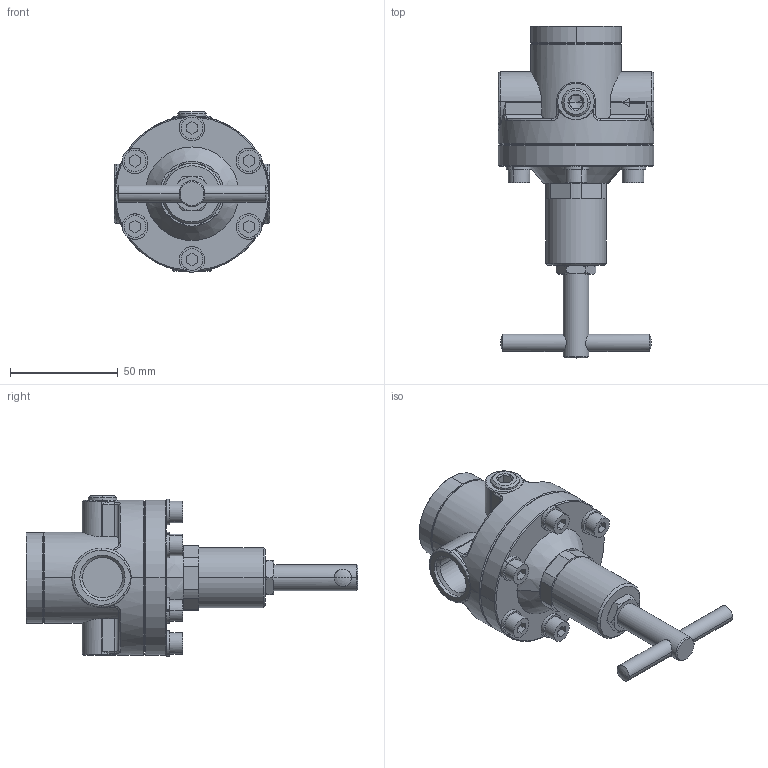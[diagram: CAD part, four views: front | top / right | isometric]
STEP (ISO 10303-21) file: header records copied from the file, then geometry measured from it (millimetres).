
FILE_DESCRIPTION((''),'2;1');
FILE_NAME('302_56X','2023-07-07T',('helmut.bau'),(''),'PRO/ENGINEER BY PARAMETRIC TECHNOLOGY CORPORATION, 2011490','PRO/ENGINEER BY PARAMETRIC TECHNOLOGY CORPORATION, 2011490','');
FILE_SCHEMA(('CONFIG_CONTROL_DESIGN'));
Length unit declared in the file: millimetre
Products named in the file (1): 302_56X
Bounding box: 72 x 153.94 x 74.4 mm (x, y, z)
Volume: 151124.7 mm3; surface area: 55656.8 mm2
Topology: 1 solids, 2 shells, 539 faces, 1315 edges, 798 vertices
Faces by surface type: plane 196, cylinder 195, cone 82, torus 45, bspline 15, sphere 6
Entity records: 19162 total; most frequent: CARTESIAN_POINT 6488, DIRECTION 2729, ORIENTED_EDGE 2582, EDGE_CURVE 1291, AXIS2_PLACEMENT_3D 1086, VERTEX_POINT 798, EDGE_LOOP 607, CIRCLE 562
